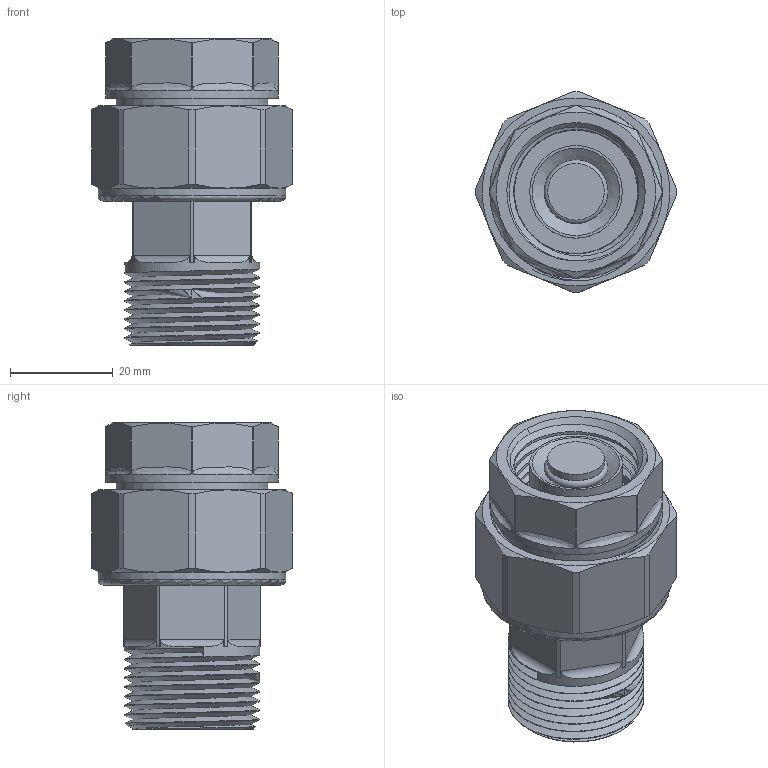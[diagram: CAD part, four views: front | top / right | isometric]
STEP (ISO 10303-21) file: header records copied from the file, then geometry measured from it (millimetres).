
FILE_DESCRIPTION(/* description */ (''),/* implementation_level */ '2;1');
FILE_NAME(/* name */ 'H:\Мишенин_3D\Исходные файлы 3D\VT.538.N.05.stp',/* time_stamp */ '2019-02-11T10:40:01+03:00',/* author */ ('MisheninAL'),/* organization */ (''),/* preprocessor_version */ 'ST-DEVELOPER v17',/* originating_system */ 'Autodesk Inventor 2019',/* authorisation */ '');
FILE_SCHEMA (('AUTOMOTIVE_DESIGN { 1 0 10303 214 3 1 1 }'));
Length unit declared in the file: millimetre
Products named in the file (1): VT.538.N.05
Bounding box: 39.01 x 39.01 x 59.5 mm (x, y, z)
Volume: 29709.8 mm3; surface area: 25868.9 mm2
Topology: 1 solids, 4 shells, 361 faces, 1123 edges, 752 vertices
Faces by surface type: plane 150, cylinder 133, cone 33, bspline 31, torus 14
Full cylindrical faces by diameter (mm): 2.6 x2, 3 x2, 3.2 x2, 9 x4, 11 x4, 11.2 x2, 14.2 x2, 18 x1, 19.5 x2, 23 x2, 24 x1, 24.2 x6, 25.8 x2, 26 x2, 26.4 x8, 27 x1, 29.5 x1, 30 x1, 30.2 x1, 33.554 x1, 36.5 x1
Entity records: 23726 total; most frequent: CARTESIAN_POINT 14033, ORIENTED_EDGE 2244, DIRECTION 1739, EDGE_CURVE 1122, VERTEX_POINT 753, AXIS2_PLACEMENT_3D 637, LINE 465, VECTOR 465
